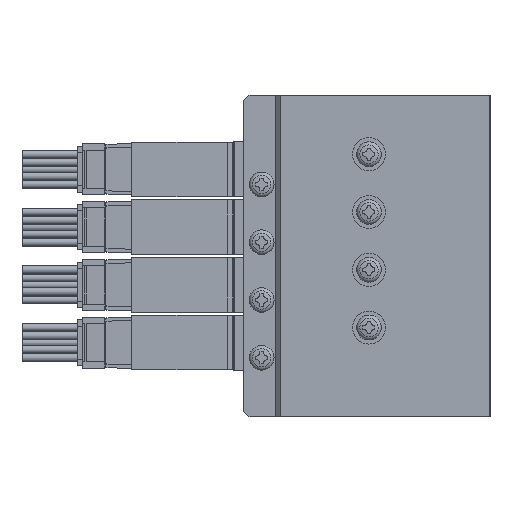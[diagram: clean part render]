
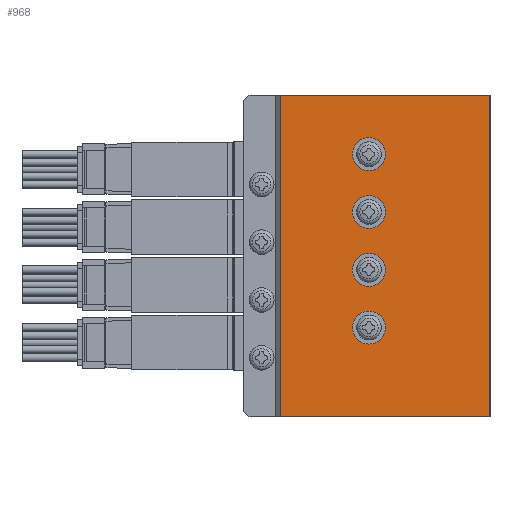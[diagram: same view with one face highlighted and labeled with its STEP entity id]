
A CAD part, left-side view. The second image highlights one B-rep face of the part: STEP entity #968.
In plain terms, the highlighted planar face has unit normal (-1, 0, 0) as drawn and (1, 0, 0) by its records, which use the part's own axes.
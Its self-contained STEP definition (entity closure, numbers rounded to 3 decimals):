
#968=ADVANCED_FACE('',(#2226,#2227,#2228,#2229,#2230),#2231,.F.);
#2226=FACE_OUTER_BOUND('',#3497,.T.);
#2227=FACE_BOUND('',#3498,.T.);
#2228=FACE_BOUND('',#3499,.T.);
#2229=FACE_BOUND('',#3500,.T.);
#2230=FACE_BOUND('',#3501,.T.);
#2231=PLANE('',#3502);
#3497=EDGE_LOOP('',(#7650,#7651,#7652,#7653));
#3498=EDGE_LOOP('',(#7654));
#3499=EDGE_LOOP('',(#7655));
#3500=EDGE_LOOP('',(#7656));
#3501=EDGE_LOOP('',(#7657));
#3502=AXIS2_PLACEMENT_3D('',#7658,#7659,#7660);
#7650=ORIENTED_EDGE('',*,*,#8809,.T.);
#7651=ORIENTED_EDGE('',*,*,#8729,.F.);
#7652=ORIENTED_EDGE('',*,*,#8803,.F.);
#7653=ORIENTED_EDGE('',*,*,#8989,.T.);
#7654=ORIENTED_EDGE('',*,*,#8757,.F.);
#7655=ORIENTED_EDGE('',*,*,#8836,.F.);
#7656=ORIENTED_EDGE('',*,*,#8917,.F.);
#7657=ORIENTED_EDGE('',*,*,#8928,.F.);
#7658=CARTESIAN_POINT('',(19.0,0.0,29.25));
#7659=DIRECTION('',(-1.0,0.0,0.0));
#7660=DIRECTION('',(0.0,0.0,1.0));
#8729=EDGE_CURVE('',#10742,#10737,#10744,.T.);
#8757=EDGE_CURVE('',#10789,#10789,#10790,.T.);
#8803=EDGE_CURVE('',#10873,#10742,#10875,.T.);
#8809=EDGE_CURVE('',#10885,#10737,#10886,.T.);
#8836=EDGE_CURVE('',#10933,#10933,#10934,.T.);
#8917=EDGE_CURVE('',#11067,#11067,#11068,.T.);
#8928=EDGE_CURVE('',#11083,#11083,#11084,.T.);
#8989=EDGE_CURVE('',#10873,#10885,#11168,.T.);
#10737=VERTEX_POINT('',#14504);
#10742=VERTEX_POINT('',#14511);
#10744=LINE('',#14514,#14515);
#10789=VERTEX_POINT('',#14631);
#10790=CIRCLE('',#14632,3.0);
#10873=VERTEX_POINT('',#14818);
#10875=LINE('',#14821,#14822);
#10885=VERTEX_POINT('',#14836);
#10886=LINE('',#14837,#14838);
#10933=VERTEX_POINT('',#14904);
#10934=CIRCLE('',#14905,3.0);
#11067=VERTEX_POINT('',#15131);
#11068=CIRCLE('',#15132,3.0);
#11083=VERTEX_POINT('',#15153);
#11084=CIRCLE('',#15154,3.0);
#11168=LINE('',#15273,#15274);
#14504=CARTESIAN_POINT('',(19.0,38.0,-29.25));
#14511=CARTESIAN_POINT('',(19.0,38.0,29.25));
#14514=CARTESIAN_POINT('',(19.0,38.0,29.25));
#14515=VECTOR('',#16693,1.0);
#14631=CARTESIAN_POINT('',(19.0,22.0,10.0));
#14632=AXIS2_PLACEMENT_3D('',#16738,#16739,#16740);
#14818=CARTESIAN_POINT('',(19.0,0.0,29.25));
#14821=CARTESIAN_POINT('',(19.0,0.0,29.25));
#14822=VECTOR('',#16810,1.0);
#14836=CARTESIAN_POINT('',(19.0,0.0,-29.25));
#14837=CARTESIAN_POINT('',(19.0,0.0,-29.25));
#14838=VECTOR('',#16818,1.0);
#14904=CARTESIAN_POINT('',(19.0,22.0,-21.5));
#14905=AXIS2_PLACEMENT_3D('',#16859,#16860,#16861);
#15131=CARTESIAN_POINT('',(19.0,22.0,-11.0));
#15132=AXIS2_PLACEMENT_3D('',#17021,#17022,#17023);
#15153=CARTESIAN_POINT('',(19.0,22.0,-0.5));
#15154=AXIS2_PLACEMENT_3D('',#17042,#17043,#17044);
#15273=CARTESIAN_POINT('',(19.0,0.0,29.25));
#15274=VECTOR('',#17152,1.0);
#16693=DIRECTION('',(0.0,0.0,-1.0));
#16738=CARTESIAN_POINT('',(19.0,22.0,13.0));
#16739=DIRECTION('',(1.0,0.0,0.0));
#16740=DIRECTION('',(0.0,0.0,-1.0));
#16810=DIRECTION('',(0.0,1.0,0.0));
#16818=DIRECTION('',(0.0,1.0,0.0));
#16859=CARTESIAN_POINT('',(19.0,22.0,-18.5));
#16860=DIRECTION('',(1.0,0.0,0.0));
#16861=DIRECTION('',(0.0,0.0,-1.0));
#17021=CARTESIAN_POINT('',(19.0,22.0,-8.0));
#17022=DIRECTION('',(1.0,0.0,0.0));
#17023=DIRECTION('',(0.0,0.0,-1.0));
#17042=CARTESIAN_POINT('',(19.0,22.0,2.5));
#17043=DIRECTION('',(1.0,0.0,0.0));
#17044=DIRECTION('',(0.0,0.0,-1.0));
#17152=DIRECTION('',(0.0,0.0,-1.0));
